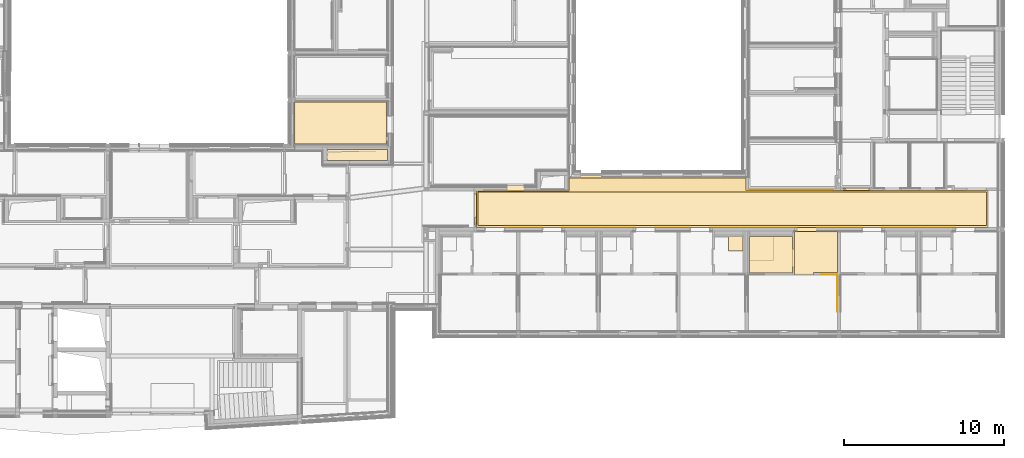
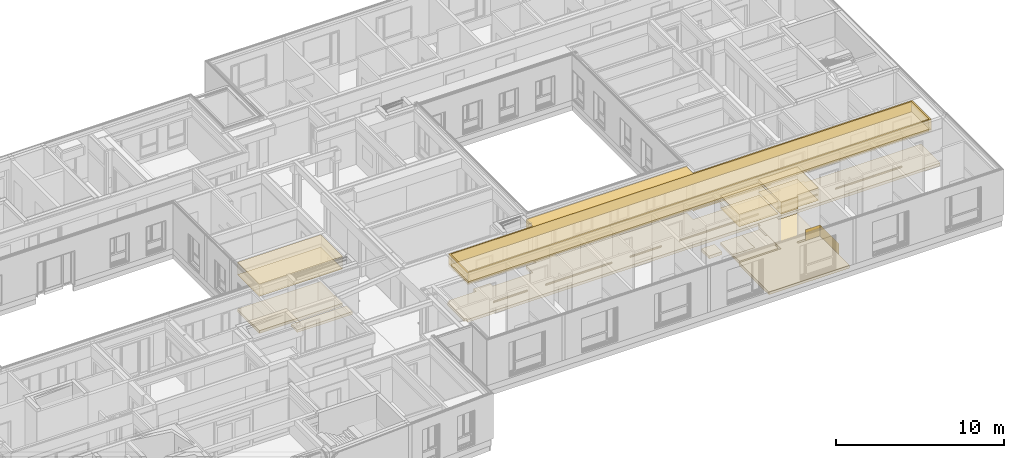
# One storey, part 180 of 207: 30 coverings.
"""IFC4 building model written with IfcOpenShell, lengths in metres."""

from ifc_helpers import new_model, entity, si_unit, converted_unit, derived_unit, frame, frame_2d, origin, origin_with_axes, place, context, subcontext, project, spatial, polyline, rectangle, outline, extrude, material, layer, layer_set, layer_usage, element, save


model = new_model("IFC4")

# Units and contexts
model_context = context("Model", 3, precision=1e-05, world=origin())
body_context = subcontext(model_context, "Body", "Model", "MODEL_VIEW")
ifc_project = project(units=[si_unit("LENGTHUNIT", "METRE"), si_unit("AREAUNIT", "SQUARE_METRE"), si_unit("VOLUMEUNIT", "CUBIC_METRE"), si_unit("MASSUNIT", "GRAM", prefix="KILO"), converted_unit("PLANEANGLEUNIT", "DEGREE", entity("IfcPlaneAngleMeasure", 0.0174532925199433), si_unit("PLANEANGLEUNIT", "RADIAN"), dimensions=[0, 0, 0, 0, 0, 0, 0]), derived_unit("THERMALTRANSMITTANCEUNIT", [(si_unit("POWERUNIT", "WATT"), 1), (si_unit("THERMODYNAMICTEMPERATUREUNIT", "KELVIN"), -1), (si_unit("LENGTHUNIT", "METRE"), -2)]), derived_unit("VOLUMETRICFLOWRATEUNIT", [(si_unit("LENGTHUNIT", "METRE"), 3), (converted_unit("TIMEUNIT", "hour", entity("IfcTimeMeasure", 3600.0), si_unit("TIMEUNIT", "SECOND"), dimensions=[0, 0, 1, 0, 0, 0, 0]), -1), (si_unit("LENGTHUNIT", "METRE"), -1)])], contexts=[model_context])

# Site, building, storey
site_placement = place(None, origin())
site = spatial("IfcSite", under=ifc_project, at=site_placement, Name="Psychiatrie Neubau Wunstorf", CompositionType="ELEMENT")
building_placement = place(site_placement, origin())
building = spatial("IfcBuilding", under=site, at=building_placement, Name="Neubau H2 Stationsgebäude", CompositionType="ELEMENT")
storey_placement = place(building_placement, frame((0.0, 0.0, -0.2)))
storey = spatial("IfcBuildingStorey", under=building, at=storey_placement, Name="H2 Ebene 0", CompositionType="ELEMENT", Elevation=-0.2)

# Covering
ifc_material_1 = material(Name="SE")
ifc_layer_1 = layer(ifc_material_1, 0.19)
ifc_layer_set_1 = layer_set([ifc_layer_1])
ifc_layer_usage_1 = layer_usage(ifc_layer_set_1, "AXIS3", "POSITIVE", 0.0)
covering_1_placement = place(storey_placement, frame((64.0600000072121, 9.48499969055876, 0.0)))
element("IfcCovering", 1, at=covering_1_placement, inside=storey, material=ifc_layer_usage_1, Name="Estrich", PredefinedType="FLOORING", context=body_context, shape_type="SweptSolid", body=[
    extrude(rectangle(XDim=0.711000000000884, YDim=3.79999999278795, at=frame_2d((1.89999999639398, -0.355500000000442), x_axis=(0.0, -1.0))), frame((0.0, 0.711000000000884, 0.0), z_axis=(0.0, 0.0, 1.0), x_axis=(1.0, 0.0, 0.0)), (0.0, 0.0, 1.0), 0.19),
])

# Space
space_1_placement = place(storey_placement, frame((73.3949999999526, 5.3325, 0.0)))
space_1 = spatial("IfcSpace", under=storey, at=space_1_placement, Name="WUN-H2-E00-F11", CompositionType="ELEMENT")

# Coverings
ifc_material_2 = material(Name="97")
ifc_layer_2 = layer(ifc_material_2, 0.001)
ifc_layer_set_2 = layer_set([ifc_layer_2])
ifc_layer_usage_2 = layer_usage(ifc_layer_set_2, "AXIS3", "POSITIVE", 0.0)
covering_2_placement = place(space_1_placement, frame((16.8160000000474, 2.2924998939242, 0.8)))
element("IfcCovering", 2, at=covering_2_placement, inside=space_1, material=ifc_layer_usage_2, Name="Handlauf", PredefinedType="CLADDING", context=body_context, shape_type="SweptSolid", body=[
    extrude(rectangle(XDim=5.37900001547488, YDim=0.1, at=frame_2d((-2.68950000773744, 0.05), x_axis=(-1.0, 0.0))), frame((0.0, 1.4587211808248e-08, 0.1), z_axis=(-2.71188171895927e-09, -1.0, 6.44998501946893e-24), x_axis=(-1.0, 2.71188171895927e-09, 0.0)), (0.0, 0.0, 1.0), 0.001),
])
ifc_material_3 = material(Name="97")
ifc_layer_3 = layer(ifc_material_3, 0.001)
ifc_layer_set_3 = layer_set([ifc_layer_3])
ifc_layer_usage_3 = layer_usage(ifc_layer_set_3, "AXIS3", "POSITIVE", 0.0)
covering_3_placement = place(space_1_placement, frame((1.77500000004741, 0.0, 0.8)))
element("IfcCovering", 3, at=covering_3_placement, inside=space_1, material=ifc_layer_usage_3, Name="Handlauf", PredefinedType="CLADDING", context=body_context, shape_type="SweptSolid", body=[
    extrude(rectangle(XDim=0.1, YDim=5.4, at=frame_2d((2.7, 0.05), x_axis=(0.0, 1.0))), frame((12.8050000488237, 0.0, 0.1), z_axis=(0.0, 1.0, 0.0), x_axis=(1.0, 0.0, 0.0)), (0.0, 0.0, 1.0), 0.001),
    extrude(rectangle(XDim=0.1, YDim=4.55, at=frame_2d((2.275, 0.05), x_axis=(0.0, 1.0))), frame((23.53, 0.0, 0.1), z_axis=(-9.99444727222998e-17, 1.0, 4.54747350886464e-15), x_axis=(1.0, 9.99444727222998e-17, 0.0)), (0.0, 0.0, 1.0), 0.001),
    extrude(rectangle(XDim=0.1, YDim=2.80499995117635, at=frame_2d((1.40249997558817, 0.05), x_axis=(0.0, 1.0))), frame((19.4650000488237, 0.0, 0.1), z_axis=(0.0, 1.0, 0.0), x_axis=(1.0, 0.0, 0.0)), (0.0, 0.0, 1.0), 0.001),
    extrude(rectangle(XDim=0.1, YDim=2.15500004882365, at=frame_2d((-1.07750002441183, -0.05), x_axis=(0.0, -1.0))), frame((11.5450000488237, 0.0, 0.0), z_axis=(0.0, 1.0, 0.0), x_axis=(1.0, 0.0, 0.0)), (0.0, 0.0, 1.0), 0.001),
    extrude(rectangle(XDim=0.1, YDim=4.55, at=frame_2d((-2.275, -0.0499999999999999), x_axis=(0.0, -1.0))), frame((8.13, 0.0, 0.0), z_axis=(-9.99444727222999e-17, 1.0, 4.54747350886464e-15), x_axis=(1.0, 9.99444727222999e-17, 0.0)), (0.0, 0.0, 1.0), 0.001),
    extrude(rectangle(XDim=0.1, YDim=2.32, at=frame_2d((-1.16, -0.05), x_axis=(0.0, -1.0))), frame((2.32, 0.0, 0.0), z_axis=(0.0, 1.0, 0.0), x_axis=(1.0, 0.0, 0.0)), (0.0, 0.0, 1.0), 0.001),
])
ifc_material_4 = material(Name="Ku1")
ifc_layer_4 = layer(ifc_material_4, 0.2)
ifc_layer_set_4 = layer_set([ifc_layer_4])
ifc_layer_usage_4 = layer_usage(ifc_layer_set_4, "AXIS3", "POSITIVE", 0.0)
covering_4_placement = place(space_1_placement, frame((-0.155, 0.0, 0.0)))
element("IfcCovering", 4, at=covering_4_placement, inside=space_1, material=ifc_layer_usage_4, Name="PVC Bahnenware Holzoptik", PredefinedType="FLOORING", context=body_context, shape_type="SweptSolid", body=[
    extrude(rectangle(XDim=0.311999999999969, YDim=1.35, at=frame_2d((-0.675, 0.155999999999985), x_axis=(0.0, 1.0))), frame((7.9910000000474, 3.08150000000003, 0.0), z_axis=(0.0, 0.0, 1.0), x_axis=(1.0, 0.0, 0.0)), (0.0, 0.0, 1.0), 0.2),
    extrude(rectangle(XDim=0.322, YDim=1.135, at=frame_2d((-0.5675, 0.161), x_axis=(0.0, 1.0))), frame((3.18000000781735, 2.275, 0.0), z_axis=(0.0, 0.0, 1.0), x_axis=(1.0, 0.0, 0.0)), (0.0, 0.0, 1.0), 0.2),
    extrude(rectangle(XDim=0.155, YDim=1.965, at=frame_2d((0.0775, 0.9825), x_axis=(1.0, 0.0))), frame((0.0, 0.155000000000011, 0.0), z_axis=(0.0, 0.0, 1.0), x_axis=(1.0, 0.0, 0.0)), (0.0, 0.0, 1.0), 0.2),
    extrude(rectangle(XDim=0.155, YDim=1.6825, at=frame_2d((0.84125, -0.0775), x_axis=(0.0, -1.0))), frame((22.9975000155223, 2.44749989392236, 0.0), z_axis=(0.0, 0.0, 1.0), x_axis=(1.0, 0.0, 0.0)), (0.0, 0.0, 1.0), 0.2),
    extrude(outline(polyline([(32.4940000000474, 2.29249999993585), (16.8160000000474, 2.29249990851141), (16.8160000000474, 3.08150000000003), (5.7849996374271, 3.08150000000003), (5.7849996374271, 2.27500000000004), (0.0, 2.275), (0.0, 0.0), (32.4940000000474, 0.0), (32.4940000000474, 2.29249999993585)])), frame((0.155, 0.0, 0.0), z_axis=(0.0, 0.0, 1.0), x_axis=(1.0, 0.0, 0.0)), (0.0, 0.0, 1.0), 0.2),
])
ifc_material_5 = material()
ifc_layer_5 = layer(ifc_material_5, 0.036)
ifc_layer_set_5 = layer_set([ifc_layer_5])
ifc_layer_usage_5 = layer_usage(ifc_layer_set_5, "AXIS3", "POSITIVE", 0.0)
covering_5_placement = place(space_1_placement, frame((0.1, 0.100000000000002, 3.6)))
element("IfcCovering", 5, at=covering_5_placement, inside=space_1, material=ifc_layer_usage_5, Name="Gipsfaserplatten 2-lagig (BSK)", PredefinedType="CEILING", context=body_context, shape_type="SweptSolid", body=[
    extrude(rectangle(XDim=2.09249999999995, YDim=31.6950000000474, at=frame_2d((-15.8475000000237, 1.04625), x_axis=(0.0, 1.0))), frame((31.6950000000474, 2.09249999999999, 0.0), z_axis=(0.0, 0.0, -1.0), x_axis=(1.0, 0.0, 0.0)), (0.0, 0.0, 1.0), 0.036),
])
ifc_material_6 = material(Name="Installationshöhe")
ifc_layer_6 = layer(ifc_material_6, 0.714)
ifc_layer_set_6 = layer_set([ifc_layer_6])
ifc_layer_usage_6 = layer_usage(ifc_layer_set_6, "AXIS3", "POSITIVE", 0.0)
covering_6_placement = place(space_1_placement, frame((0.1, 0.100000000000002, 3.564)))
element("IfcCovering", 6, at=covering_6_placement, inside=space_1, material=ifc_layer_usage_6, Name="Gipsfaserplatten 2-lagig (BSK)", PredefinedType="CEILING", context=body_context, shape_type="SweptSolid", body=[
    extrude(rectangle(XDim=2.09249999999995, YDim=31.6950000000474, at=frame_2d((-15.8475000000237, 1.04625), x_axis=(0.0, 1.0))), frame((31.6950000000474, 2.09249999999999, 0.0), z_axis=(0.0, 0.0, -1.0), x_axis=(1.0, 0.0, 0.0)), (0.0, 0.0, 1.0), 0.714),
])
ifc_material_7 = material(Name="Aa")
ifc_layer_7 = layer(ifc_material_7, 0.15)
ifc_layer_set_7 = layer_set([ifc_layer_7])
ifc_layer_usage_7 = layer_usage(ifc_layer_set_7, "AXIS3", "POSITIVE", 0.0)
covering_7_placement = place(space_1_placement, frame((0.1, 0.100000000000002, 2.85)))
element("IfcCovering", 7, at=covering_7_placement, inside=space_1, material=ifc_layer_usage_7, Name="Gipsfaserplatten 2-lagig (BSK)", PredefinedType="CEILING", context=body_context, shape_type="SweptSolid", body=[
    extrude(rectangle(XDim=2.09249999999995, YDim=31.6950000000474, at=frame_2d((-15.8475000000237, 1.04625), x_axis=(0.0, 1.0))), frame((31.6950000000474, 2.09249999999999, 0.0), z_axis=(0.0, 0.0, -1.0), x_axis=(1.0, 0.0, 0.0)), (0.0, 0.0, 1.0), 0.15),
])
ifc_material_8 = material(Name="D1")
ifc_layer_8 = layer(ifc_material_8, 0.001)
ifc_layer_set_8 = layer_set([ifc_layer_8])
ifc_layer_usage_8 = layer_usage(ifc_layer_set_8, "AXIS3", "POSITIVE", 0.0)
covering_8_placement = place(space_1_placement, frame((0.1, 0.100000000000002, 2.7)))
element("IfcCovering", 8, at=covering_8_placement, inside=space_1, material=ifc_layer_usage_8, Name="Gipsfaserplatten 2-lagig (BSK)", PredefinedType="CEILING", context=body_context, shape_type="SweptSolid", body=[
    extrude(rectangle(XDim=2.09249999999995, YDim=31.6950000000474, at=frame_2d((-15.8475000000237, 1.04625), x_axis=(0.0, 1.0))), frame((31.6950000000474, 2.09249999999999, 0.0), z_axis=(0.0, 0.0, -1.0), x_axis=(1.0, 0.0, 0.0)), (0.0, 0.0, 1.0), 0.001),
])
ifc_material_9 = material()
ifc_layer_9 = layer(ifc_material_9, 0.036)
ifc_layer_set_9 = layer_set([ifc_layer_9])
ifc_layer_usage_9 = layer_usage(ifc_layer_set_9, "AXIS3", "POSITIVE", 0.0)
covering_9_placement = place(space_1_placement, frame((0.0, 0.0, 3.6)))
element("IfcCovering", 9, at=covering_9_placement, inside=space_1, material=ifc_layer_usage_9, Name="Gipsfaserplatten 2-lagig (BSK)", PredefinedType="CEILING", context=body_context, shape_type="SweptSolid", body=[
    extrude(outline(polyline([(5.76750000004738, 0.789000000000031), (5.7849996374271, 0.789000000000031), (5.7849996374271, 0.0), (16.8160000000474, 0.0), (16.8160000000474, 0.789000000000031), (31.8950000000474, 0.789000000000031), (31.8950000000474, 3.08149999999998), (0.0, 3.08150000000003), (0.0, 0.80650000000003), (5.76750000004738, 0.806499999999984), (5.76750000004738, 0.789000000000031)]), holes=[polyline([(31.7950000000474, 2.98149999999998), (31.7950000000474, 0.889000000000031), (0.1, 0.889000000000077), (0.1, 2.98150000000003), (31.7950000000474, 2.98149999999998)])]), frame((0.0, 3.08150000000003, 0.0), z_axis=(0.0, 0.0, -1.0), x_axis=(1.0, 0.0, 0.0)), (0.0, 0.0, 1.0), 0.036),
])
ifc_material_10 = material(Name="Installationshöhe")
ifc_layer_10 = layer(ifc_material_10, 0.714)
ifc_layer_set_10 = layer_set([ifc_layer_10])
ifc_layer_usage_10 = layer_usage(ifc_layer_set_10, "AXIS3", "POSITIVE", 0.0)
covering_10_placement = place(space_1_placement, frame((0.0, 0.0, 3.564)))
element("IfcCovering", 10, at=covering_10_placement, inside=space_1, material=ifc_layer_usage_10, Name="Gipsfaserplatten 2-lagig (BSK)", PredefinedType="CEILING", context=body_context, shape_type="SweptSolid", body=[
    extrude(outline(polyline([(5.76750000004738, 0.789000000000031), (5.7849996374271, 0.789000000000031), (5.7849996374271, 0.0), (16.8160000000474, 0.0), (16.8160000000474, 0.789000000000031), (31.8950000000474, 0.789000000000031), (31.8950000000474, 3.08149999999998), (0.0, 3.08150000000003), (0.0, 0.80650000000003), (5.76750000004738, 0.806499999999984), (5.76750000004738, 0.789000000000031)]), holes=[polyline([(31.7950000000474, 2.98149999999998), (31.7950000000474, 0.889000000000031), (0.1, 0.889000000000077), (0.1, 2.98150000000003), (31.7950000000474, 2.98149999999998)])]), frame((0.0, 3.08150000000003, 0.0), z_axis=(0.0, 0.0, -1.0), x_axis=(1.0, 0.0, 0.0)), (0.0, 0.0, 1.0), 0.714),
])
ifc_material_11 = material(Name="A1")
ifc_layer_11 = layer(ifc_material_11, 0.15)
ifc_layer_set_11 = layer_set([ifc_layer_11])
ifc_layer_usage_11 = layer_usage(ifc_layer_set_11, "AXIS3", "POSITIVE", 0.0)
covering_11_placement = place(space_1_placement, frame((0.0, 0.0, 2.85)))
element("IfcCovering", 11, at=covering_11_placement, inside=space_1, material=ifc_layer_usage_11, Name="Gipsfaserplatten 2-lagig (BSK)", PredefinedType="CEILING", context=body_context, shape_type="SweptSolid", body=[
    extrude(outline(polyline([(5.76750000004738, 0.789000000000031), (5.7849996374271, 0.789000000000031), (5.7849996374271, 0.0), (16.8160000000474, 0.0), (16.8160000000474, 0.789000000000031), (31.8950000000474, 0.789000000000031), (31.8950000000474, 3.08149999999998), (0.0, 3.08150000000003), (0.0, 0.80650000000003), (5.76750000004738, 0.806499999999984), (5.76750000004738, 0.789000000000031)]), holes=[polyline([(31.7950000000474, 2.98149999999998), (31.7950000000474, 0.889000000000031), (0.1, 0.889000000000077), (0.1, 2.98150000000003), (31.7950000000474, 2.98149999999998)])]), frame((0.0, 3.08150000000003, 0.0), z_axis=(0.0, 0.0, -1.0), x_axis=(1.0, 0.0, 0.0)), (0.0, 0.0, 1.0), 0.15),
])
ifc_material_12 = material(Name="D1")
ifc_layer_12 = layer(ifc_material_12, 0.001)
ifc_layer_set_12 = layer_set([ifc_layer_12])
ifc_layer_usage_12 = layer_usage(ifc_layer_set_12, "AXIS3", "POSITIVE", 0.0)
covering_12_placement = place(space_1_placement, frame((0.0, 0.0, 2.7)))
element("IfcCovering", 12, at=covering_12_placement, inside=space_1, material=ifc_layer_usage_12, Name="Gipsfaserplatten 2-lagig (BSK)", PredefinedType="CEILING", context=body_context, shape_type="SweptSolid", body=[
    extrude(outline(polyline([(5.76750000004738, 0.789000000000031), (5.7849996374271, 0.789000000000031), (5.7849996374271, 0.0), (16.8160000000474, 0.0), (16.8160000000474, 0.789000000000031), (31.8950000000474, 0.789000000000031), (31.8950000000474, 3.08149999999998), (0.0, 3.08150000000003), (0.0, 0.80650000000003), (5.76750000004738, 0.806499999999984), (5.76750000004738, 0.789000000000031)]), holes=[polyline([(31.7950000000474, 2.98149999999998), (31.7950000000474, 0.889000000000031), (0.1, 0.889000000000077), (0.1, 2.98150000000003), (31.7950000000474, 2.98149999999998)])]), frame((0.0, 3.08150000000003, 0.0), z_axis=(0.0, 0.0, -1.0), x_axis=(1.0, 0.0, 0.0)), (0.0, 0.0, 1.0), 0.001),
])

# Space
space_2_placement = place(storey_placement, frame((90.4250000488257, 2.48550006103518, 0.0)))
space_2 = spatial("IfcSpace", under=storey, at=space_2_placement, Name="WUN-H2-E00-092a", CompositionType="ELEMENT")

# Coverings
ifc_material_13 = material(Name="Fl1")
ifc_layer_13 = layer(ifc_material_13, 0.2)
ifc_layer_set_13 = layer_set([ifc_layer_13])
ifc_layer_usage_13 = layer_usage(ifc_layer_set_13, "AXIS3", "POSITIVE", 0.0)
covering_13_placement = place(space_2_placement, origin())
element("IfcCovering", 13, at=covering_13_placement, inside=space_2, material=ifc_layer_usage_13, Name="Fliesen", PredefinedType="FLOORING", context=body_context, shape_type="SweptSolid", body=[
    extrude(rectangle(XDim=0.125, YDim=1.135, at=frame_2d((-0.0625, -0.5675), x_axis=(-1.0, 0.0))), frame((2.79999999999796, 1.50999993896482, 0.0), z_axis=(0.0, 0.0, 1.0), x_axis=(1.0, 0.0, 0.0)), (0.0, 0.0, 1.0), 0.2),
    extrude(outline(polyline([(2.675, 2.265), (1.5, 2.26499993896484), (1.5, 0.764999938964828), (0.0, 0.764999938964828), (0.0, 0.0), (2.675, 6.103515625e-08), (2.675, 2.265)])), origin_with_axes(), (0.0, 0.0, 1.0), 0.2),
])
ifc_material_14 = material(Name="Fl2")
ifc_layer_14 = layer(ifc_material_14, 0.2)
ifc_layer_set_14 = layer_set([ifc_layer_14])
ifc_layer_usage_14 = layer_usage(ifc_layer_set_14, "AXIS3", "POSITIVE", 0.0)
covering_14_placement = place(space_2_placement, frame((0.0, 0.764999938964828, 0.0)))
element("IfcCovering", 14, at=covering_14_placement, inside=space_2, material=ifc_layer_usage_14, Name="Fliesen Mosaik", PredefinedType="FLOORING", context=body_context, shape_type="SweptSolid", body=[
    extrude(rectangle(XDim=1.50000000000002, YDim=1.5, at=frame_2d((0.75, -0.750000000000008), x_axis=(0.0, -1.0))), frame((0.0, 1.50000000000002, 0.0), z_axis=(0.0, 0.0, 1.0), x_axis=(1.0, 0.0, 0.0)), (0.0, 0.0, 1.0), 0.2),
])
ifc_material_15 = material()
ifc_layer_15 = layer(ifc_material_15, 0.036)
ifc_layer_set_15 = layer_set([ifc_layer_15])
ifc_layer_usage_15 = layer_usage(ifc_layer_set_15, "AXIS3", "POSITIVE", 0.0)
covering_15_placement = place(space_2_placement, frame((0.0, 0.0, 3.6)))
element("IfcCovering", 15, at=covering_15_placement, inside=space_2, material=ifc_layer_usage_15, Name="Gipsfaserplatten 2-lagig (BSK)", PredefinedType="CEILING", context=body_context, shape_type="SweptSolid", body=[
    extrude(rectangle(XDim=2.675, YDim=2.26499993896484, at=frame_2d((1.3375, 1.13249993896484), x_axis=(1.0, -2.28168808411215e-08))), frame((0.0, 2.26499993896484, 0.0), z_axis=(0.0, 0.0, -1.0), x_axis=(1.0, 0.0, 0.0)), (0.0, 0.0, 1.0), 0.036),
])
ifc_material_16 = material(Name="Installationshöhe")
ifc_layer_16 = layer(ifc_material_16, 0.764)
ifc_layer_set_16 = layer_set([ifc_layer_16])
ifc_layer_usage_16 = layer_usage(ifc_layer_set_16, "AXIS3", "POSITIVE", 0.0)
covering_16_placement = place(space_2_placement, frame((0.0, 0.0, 3.564)))
element("IfcCovering", 16, at=covering_16_placement, inside=space_2, material=ifc_layer_usage_16, Name="Gipsfaserplatten 2-lagig (BSK)", PredefinedType="CEILING", context=body_context, shape_type="SweptSolid", body=[
    extrude(rectangle(XDim=2.675, YDim=2.26499993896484, at=frame_2d((1.3375, 1.13249993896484), x_axis=(1.0, -2.28168808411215e-08))), frame((0.0, 2.26499993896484, 0.0), z_axis=(0.0, 0.0, -1.0), x_axis=(1.0, 0.0, 0.0)), (0.0, 0.0, 1.0), 0.764),
])
ifc_material_17 = material(Name="B")
ifc_layer_17 = layer(ifc_material_17, 0.1)
ifc_layer_set_17 = layer_set([ifc_layer_17])
ifc_layer_usage_17 = layer_usage(ifc_layer_set_17, "AXIS3", "POSITIVE", 0.0)
covering_17_placement = place(space_2_placement, frame((0.0, 0.0, 2.8)))
element("IfcCovering", 17, at=covering_17_placement, inside=space_2, material=ifc_layer_usage_17, Name="Gipskarton, imprägniert", PredefinedType="CEILING", context=body_context, shape_type="SweptSolid", body=[
    extrude(rectangle(XDim=2.675, YDim=2.26499993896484, at=frame_2d((1.3375, 1.13249993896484), x_axis=(1.0, -2.28168808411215e-08))), frame((0.0, 2.26499993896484, 0.0), z_axis=(0.0, 0.0, -1.0), x_axis=(1.0, 0.0, 0.0)), (0.0, 0.0, 1.0), 0.1),
])
ifc_material_18 = material(Name="D1")
ifc_layer_18 = layer(ifc_material_18, 0.001)
ifc_layer_set_18 = layer_set([ifc_layer_18])
ifc_layer_usage_18 = layer_usage(ifc_layer_set_18, "AXIS3", "POSITIVE", 0.0)
covering_18_placement = place(space_2_placement, frame((0.0, 0.0, 2.7)))
element("IfcCovering", 18, at=covering_18_placement, inside=space_2, material=ifc_layer_usage_18, Name="Gipsfaserplatten 2-lagig (BSK)", PredefinedType="CEILING", context=body_context, shape_type="SweptSolid", body=[
    extrude(rectangle(XDim=2.675, YDim=2.26499993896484, at=frame_2d((1.3375, 1.13249993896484), x_axis=(1.0, -2.28168808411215e-08))), frame((0.0, 2.26499993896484, 0.0), z_axis=(0.0, 0.0, -1.0), x_axis=(1.0, 0.0, 0.0)), (0.0, 0.0, 1.0), 0.001),
])

# Space
space_3_placement = place(storey_placement, frame((88.2250000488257, 2.48550000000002, 0.0)))
space_3 = spatial("IfcSpace", under=storey, at=space_3_placement, Name="WUN-H2-E00-093a", CompositionType="ELEMENT")

# Covering
ifc_material_19 = material(Name="Fl2")
ifc_layer_19 = layer(ifc_material_19, 0.2)
ifc_layer_set_19 = layer_set([ifc_layer_19])
ifc_layer_usage_19 = layer_usage(ifc_layer_set_19, "AXIS3", "POSITIVE", 0.0)
covering_19_placement = place(space_3_placement, frame((0.9, 1.365, 0.0)))
element("IfcCovering", 19, at=covering_19_placement, inside=space_3, material=ifc_layer_usage_19, Name="Fliesen Mosaik", PredefinedType="FLOORING", context=body_context, shape_type="SweptSolid", body=[
    extrude(rectangle(XDim=0.9, YDim=0.9, at=frame_2d((-0.45, -0.45), x_axis=(-1.0, 0.0))), frame((0.9, 0.9, 0.0), z_axis=(0.0, 0.0, 1.0), x_axis=(1.0, 0.0, 0.0)), (0.0, 0.0, 1.0), 0.2),
])

# Space
space_4_placement = place(storey_placement, frame((62.05, 10.5209952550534, 0.0)))
space_4 = spatial("IfcSpace", under=storey, at=space_4_placement, Name="WUN-H2-E00-065", CompositionType="ELEMENT")

# Coverings
ifc_material_20 = material(Name="Ku2")
ifc_layer_20 = layer(ifc_material_20, 0.2)
ifc_layer_set_20 = layer_set([ifc_layer_20])
ifc_layer_usage_20 = layer_usage(ifc_layer_set_20, "AXIS3", "POSITIVE", 0.0)
covering_20_placement = place(space_4_placement, origin())
element("IfcCovering", 20, at=covering_20_placement, inside=space_4, material=ifc_layer_usage_20, Name="PVC Bahnenware Uni", PredefinedType="FLOORING", context=body_context, shape_type="SweptSolid", body=[
    extrude(outline(polyline([(1.8610137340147e-07, 6.09874336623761e-06), (5.73499999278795, 0.0), (5.73500203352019, 2.61700132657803), (2.0537200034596e-05, 2.61700132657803), (2.0537200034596e-05, 2.56700132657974), (0.0, 2.56700132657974), (1.8610137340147e-07, 6.09874336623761e-06)])), frame((0.0110000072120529, 5.2639546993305e-08, 0.0), z_axis=(0.0, 0.0, 1.0), x_axis=(1.0, 0.0, 0.0)), (0.0, 0.0, 1.0), 0.2),
])
ifc_material_21 = material()
ifc_layer_21 = layer(ifc_material_21, 0.036)
ifc_layer_set_21 = layer_set([ifc_layer_21])
ifc_layer_usage_21 = layer_usage(ifc_layer_set_21, "AXIS3", "POSITIVE", 0.0)
covering_21_placement = place(space_4_placement, frame((0.011000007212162, 0.0, 3.6)))
element("IfcCovering", 21, at=covering_21_placement, inside=space_4, material=ifc_layer_usage_21, Name="Gipsfaserplatten 2-lagig (BSK)", PredefinedType="CEILING", context=body_context, shape_type="SweptSolid", body=[
    extrude(outline(polyline([(1.86099437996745e-07, 2.61699708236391), (1.86099437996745e-07, 0.729999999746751), (2.05371999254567e-05, 0.729999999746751), (2.05371999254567e-05, 0.679924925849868), (0.0, 0.679924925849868), (0.0, 0.0), (5.73500203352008, 0.0), (5.73499999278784, 2.61700132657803), (1.86099437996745e-07, 2.61699708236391)])), frame((0.0, 2.61700137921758, 0.0), z_axis=(0.0, 0.0, -1.0), x_axis=(1.0, 0.0, 0.0)), (0.0, 0.0, 1.0), 0.036),
])
ifc_material_22 = material(Name="Installationshöhe")
ifc_layer_22 = layer(ifc_material_22, 0.764)
ifc_layer_set_22 = layer_set([ifc_layer_22])
ifc_layer_usage_22 = layer_usage(ifc_layer_set_22, "AXIS3", "POSITIVE", 0.0)
covering_22_placement = place(space_4_placement, frame((0.011000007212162, 0.0, 3.564)))
element("IfcCovering", 22, at=covering_22_placement, inside=space_4, material=ifc_layer_usage_22, Name="Gipsfaserplatten 2-lagig (BSK)", PredefinedType="CEILING", context=body_context, shape_type="SweptSolid", body=[
    extrude(outline(polyline([(1.86099437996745e-07, 2.61699708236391), (1.86099437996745e-07, 0.729999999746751), (2.05371999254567e-05, 0.729999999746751), (2.05371999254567e-05, 0.679924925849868), (0.0, 0.679924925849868), (0.0, 0.0), (5.73500203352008, 0.0), (5.73499999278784, 2.61700132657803), (1.86099437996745e-07, 2.61699708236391)])), frame((0.0, 2.61700137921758, 0.0), z_axis=(0.0, 0.0, -1.0), x_axis=(1.0, 0.0, 0.0)), (0.0, 0.0, 1.0), 0.764),
])
ifc_material_23 = material(Name="H7a")
ifc_layer_23 = layer(ifc_material_23, 0.1)
ifc_layer_set_23 = layer_set([ifc_layer_23])
ifc_layer_usage_23 = layer_usage(ifc_layer_set_23, "AXIS3", "POSITIVE", 0.0)
covering_23_placement = place(space_4_placement, frame((0.011000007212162, 0.0, 2.8)))
element("IfcCovering", 23, at=covering_23_placement, inside=space_4, material=ifc_layer_usage_23, Name="Kühldecke glatt", PredefinedType="CEILING", context=body_context, shape_type="SweptSolid", body=[
    extrude(outline(polyline([(1.86099437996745e-07, 2.61699708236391), (1.86099437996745e-07, 0.729999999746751), (2.05371999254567e-05, 0.729999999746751), (2.05371999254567e-05, 0.679924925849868), (0.0, 0.679924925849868), (0.0, 0.0), (5.73500203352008, 0.0), (5.73499999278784, 2.61700132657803), (1.86099437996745e-07, 2.61699708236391)])), frame((0.0, 2.61700137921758, 0.0), z_axis=(0.0, 0.0, -1.0), x_axis=(1.0, 0.0, 0.0)), (0.0, 0.0, 1.0), 0.1),
])
ifc_material_24 = material(Name="D1")
ifc_layer_24 = layer(ifc_material_24, 0.001)
ifc_layer_set_24 = layer_set([ifc_layer_24])
ifc_layer_usage_24 = layer_usage(ifc_layer_set_24, "AXIS3", "POSITIVE", 0.0)
covering_24_placement = place(space_4_placement, frame((0.011000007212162, 0.0, 2.7)))
element("IfcCovering", 24, at=covering_24_placement, inside=space_4, material=ifc_layer_usage_24, Name="Gipsfaserplatten 2-lagig (BSK)", PredefinedType="CEILING", context=body_context, shape_type="SweptSolid", body=[
    extrude(outline(polyline([(1.86099437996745e-07, 2.61699708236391), (1.86099437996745e-07, 0.729999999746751), (2.05371999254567e-05, 0.729999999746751), (2.05371999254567e-05, 0.679924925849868), (0.0, 0.679924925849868), (0.0, 0.0), (5.73500203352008, 0.0), (5.73499999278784, 2.61700132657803), (1.86099437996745e-07, 2.61699708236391)])), frame((0.0, 2.61700137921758, 0.0), z_axis=(0.0, 0.0, -1.0), x_axis=(1.0, 0.0, 0.0)), (0.0, 0.0, 1.0), 0.001),
])

# Space
space_5_placement = place(storey_placement, frame((90.35, -1.17499993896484, 0.0)))
space_5 = spatial("IfcSpace", under=storey, at=space_5_placement, Name="WUN-H2-E00-092", CompositionType="ELEMENT")

# Coverings
ifc_material_25 = material(Name="84")
ifc_layer_25 = layer(ifc_material_25, 0.001)
ifc_layer_set_25 = layer_set([ifc_layer_25])
ifc_layer_usage_25 = layer_usage(ifc_layer_set_25, "AXIS3", "POSITIVE", 0.0)
covering_25_placement = place(space_5_placement, frame((4.55000006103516, 1.2354998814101, 0.1)))
element("IfcCovering", 25, at=covering_25_placement, inside=space_5, material=ifc_layer_usage_25, Name="Acrobyn", PredefinedType="CLADDING", context=body_context, shape_type="SweptSolid", body=[
    extrude(rectangle(XDim=0.9, YDim=1.0, at=frame_2d((-0.5, -0.45), x_axis=(0.0, -1.0))), frame((0.0, 2.3, 0.0), z_axis=(4.54747350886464e-16, -1.0, 0.0), x_axis=(-1.0, -4.54747350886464e-16, 0.0)), (0.0, 0.0, 1.0), 0.001),
    extrude(rectangle(XDim=0.9, YDim=2.3, at=frame_2d((-1.15, -0.45), x_axis=(0.0, -1.0))), frame((1.0, 2.3, 0.0), z_axis=(-1.0, 0.0, 0.0), x_axis=(0.0, 1.0, 0.0)), (0.0, 0.0, 1.0), 0.001),
])
ifc_material_26 = material(Name="Ku1")
ifc_layer_26 = layer(ifc_material_26, 0.2)
ifc_layer_set_26 = layer_set([ifc_layer_26])
ifc_layer_usage_26 = layer_usage(ifc_layer_set_26, "AXIS3", "POSITIVE", 0.0)
covering_26_placement = place(space_5_placement, frame((0.0, 0.0109999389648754, 0.0)))
element("IfcCovering", 26, at=covering_26_placement, inside=space_5, material=ifc_layer_usage_26, Name="PVC Bahnenware Holzoptik", PredefinedType="FLOORING", context=body_context, shape_type="SweptSolid", body=[
    extrude(rectangle(XDim=0.272, YDim=1.26, at=frame_2d((-0.63, 0.136), x_axis=(0.0, 1.0))), frame((4.28500004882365, 6.22449999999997, 0.0), z_axis=(0.0, 0.0, 1.0), x_axis=(1.0, 0.0, 0.0)), (0.0, 0.0, 1.0), 0.2),
    extrude(outline(polyline([(5.55, 3.67449999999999), (5.55, 6.22449999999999), (2.87500006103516, 6.22449999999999), (2.87500004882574, 3.52449999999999), (0.0, 3.52449999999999), (4.88257501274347e-08, 0.0), (5.55, 0.0), (5.55, 3.52449999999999), (4.04999999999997, 3.52449999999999), (4.05, 3.67449999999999), (5.55, 3.67449999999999)])), origin_with_axes(), (0.0, 0.0, 1.0), 0.2),
])
ifc_material_27 = material()
ifc_layer_27 = layer(ifc_material_27, 0.036)
ifc_layer_set_27 = layer_set([ifc_layer_27])
ifc_layer_usage_27 = layer_usage(ifc_layer_set_27, "AXIS3", "POSITIVE", 0.0)
covering_27_placement = place(space_5_placement, frame((2.87500004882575, 3.53549993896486, 3.6)))
element("IfcCovering", 27, at=covering_27_placement, inside=space_5, material=ifc_layer_usage_27, Name="Gipsfaserplatten 2-lagig (BSK)", PredefinedType="CEILING", context=body_context, shape_type="SweptSolid", body=[
    extrude(outline(polyline([(0.0, 2.70000000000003), (1.21755001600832e-08, 0.0), (2.67499995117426, 0.0), (2.67499995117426, 2.55000000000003), (1.17499995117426, 2.55000000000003), (1.17499995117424, 2.70000000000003), (0.0, 2.70000000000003)])), frame((0.0, 2.70000000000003, 0.0), z_axis=(0.0, 0.0, -1.0), x_axis=(1.0, 0.0, 0.0)), (0.0, 0.0, 1.0), 0.036),
])
ifc_material_28 = material(Name="Installationshöhe")
ifc_layer_28 = layer(ifc_material_28, 0.764)
ifc_layer_set_28 = layer_set([ifc_layer_28])
ifc_layer_usage_28 = layer_usage(ifc_layer_set_28, "AXIS3", "POSITIVE", 0.0)
covering_28_placement = place(space_5_placement, frame((2.87500004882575, 3.53549993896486, 3.564)))
element("IfcCovering", 28, at=covering_28_placement, inside=space_5, material=ifc_layer_usage_28, Name="Gipsfaserplatten 2-lagig (BSK)", PredefinedType="CEILING", context=body_context, shape_type="SweptSolid", body=[
    extrude(outline(polyline([(0.0, 2.70000000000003), (1.21755001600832e-08, 0.0), (2.67499995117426, 0.0), (2.67499995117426, 2.55000000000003), (1.17499995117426, 2.55000000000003), (1.17499995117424, 2.70000000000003), (0.0, 2.70000000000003)])), frame((0.0, 2.70000000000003, 0.0), z_axis=(0.0, 0.0, -1.0), x_axis=(1.0, 0.0, 0.0)), (0.0, 0.0, 1.0), 0.764),
])
ifc_material_29 = material(Name="A1")
ifc_layer_29 = layer(ifc_material_29, 0.1)
ifc_layer_set_29 = layer_set([ifc_layer_29])
ifc_layer_usage_29 = layer_usage(ifc_layer_set_29, "AXIS3", "POSITIVE", 0.0)
covering_29_placement = place(space_5_placement, frame((2.87500004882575, 3.53549993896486, 2.8)))
element("IfcCovering", 29, at=covering_29_placement, inside=space_5, material=ifc_layer_usage_29, Name="Gipsfaserplatten 2-lagig (BSK)", PredefinedType="CEILING", context=body_context, shape_type="SweptSolid", body=[
    extrude(outline(polyline([(0.0, 2.70000000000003), (1.21755001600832e-08, 0.0), (2.67499995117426, 0.0), (2.67499995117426, 2.55000000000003), (1.17499995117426, 2.55000000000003), (1.17499995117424, 2.70000000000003), (0.0, 2.70000000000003)])), frame((0.0, 2.70000000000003, 0.0), z_axis=(0.0, 0.0, -1.0), x_axis=(1.0, 0.0, 0.0)), (0.0, 0.0, 1.0), 0.1),
])
ifc_material_30 = material(Name="D1")
ifc_layer_30 = layer(ifc_material_30, 0.001)
ifc_layer_set_30 = layer_set([ifc_layer_30])
ifc_layer_usage_30 = layer_usage(ifc_layer_set_30, "AXIS3", "POSITIVE", 0.0)
covering_30_placement = place(space_5_placement, frame((2.87500004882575, 3.53549993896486, 2.7)))
element("IfcCovering", 30, at=covering_30_placement, inside=space_5, material=ifc_layer_usage_30, Name="Gipsfaserplatten 2-lagig (BSK)", PredefinedType="CEILING", context=body_context, shape_type="SweptSolid", body=[
    extrude(outline(polyline([(0.0, 2.70000000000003), (1.21755001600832e-08, 0.0), (2.67499995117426, 0.0), (2.67499995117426, 2.55000000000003), (1.17499995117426, 2.55000000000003), (1.17499995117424, 2.70000000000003), (0.0, 2.70000000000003)])), frame((0.0, 2.70000000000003, 0.0), z_axis=(0.0, 0.0, -1.0), x_axis=(1.0, 0.0, 0.0)), (0.0, 0.0, 1.0), 0.001),
])

save(model, "model.ifc")
